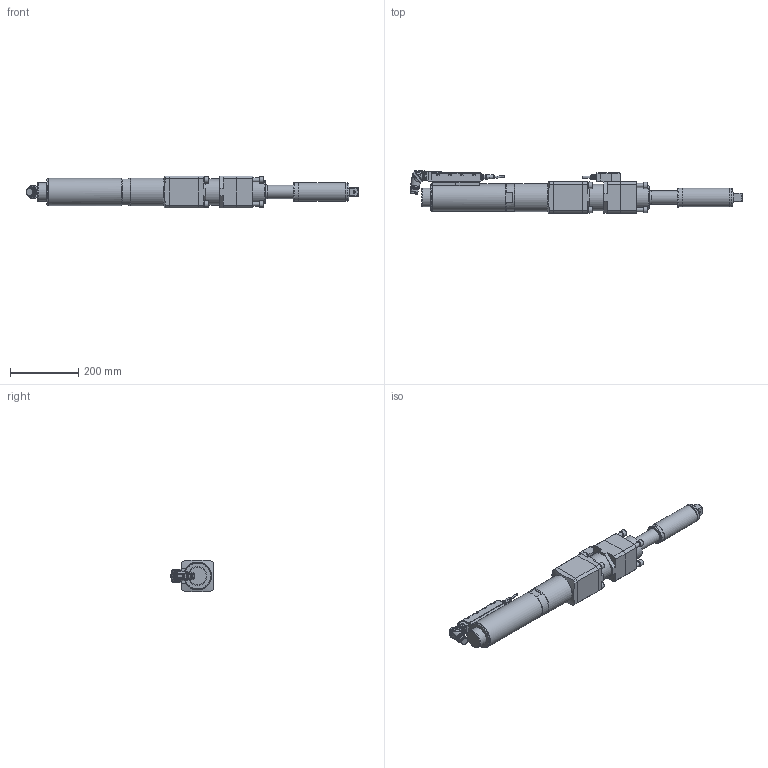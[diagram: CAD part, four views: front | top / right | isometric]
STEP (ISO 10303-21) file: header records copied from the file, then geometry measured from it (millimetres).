
FILE_DESCRIPTION (( 'STEP AP203' ), '1' );
FILE_NAME ('70082569_ESX5130ZDWRX1300AZX580.STEP', '2026-03-12T10:51:57', ( '' ), ( '' ), 'SwSTEP 2.0', 'SolidWorks 2020', '' );
FILE_SCHEMA (( 'CONFIG_CONTROL_DESIGN' ));
Length unit declared in the file: millimetre
Products named in the file (11): 70057493_2; 70057493_4; 70210507; 70082293_2; 70082374; 70057493_3; 70082313; 70082313_ESX5130_Standard_Winkel_2; 70057493_Standard_winkel; 7002956_3; 70082569_ESX5130ZDWRX1300AZX580
Assembly tree (11 placements, depth 4):
  70082569_ESX5130ZDWRX1300AZX580
    70082313_ESX5130_Standard_Winkel_2
      70082313
      70057493_Standard_winkel
        70057493_2
        70057493_3
        70057493_4
      70082293_2  x2
    70210507
    70082374
    7002956_3
Bounding box: 973.96 x 124.64 x 92 mm (x, y, z)
Volume: 4659780.6 mm3; surface area: 442755.7 mm2
Topology: 13 solids, 13 shells, 2552 faces, 6634 edges, 4303 vertices
Faces by surface type: plane 1240, cylinder 672, cone 293, bspline 269, torus 72, sphere 6
Full cylindrical faces by diameter (mm): 0.5 x14, 0.57 x14, 2 x3, 3 x4, 4.2 x9, 4.9 x4, 5 x8, 5.5 x12, 6 x3, 8.459 x2, 9.1 x1, 10.2 x8, 11 x1, 11.08 x2, 12 x12, 12.3 x2, 14 x4, 14.5 x2, 17.4 x1, 18 x12, 20 x1, 21.15 x1, 21.5 x1, 21.7 x1, 22.3 x1, 24.3 x1, 34 x3, 34.6 x2, 35.5 x1, 40 x1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
Entity records: 85392 total; most frequent: CARTESIAN_POINT 29580, ORIENTED_EDGE 11768, DIRECTION 10200, EDGE_CURVE 5884, VERTEX_POINT 3980, AXIS2_PLACEMENT_3D 3734, EDGE_LOOP 2926, VECTOR 2732
